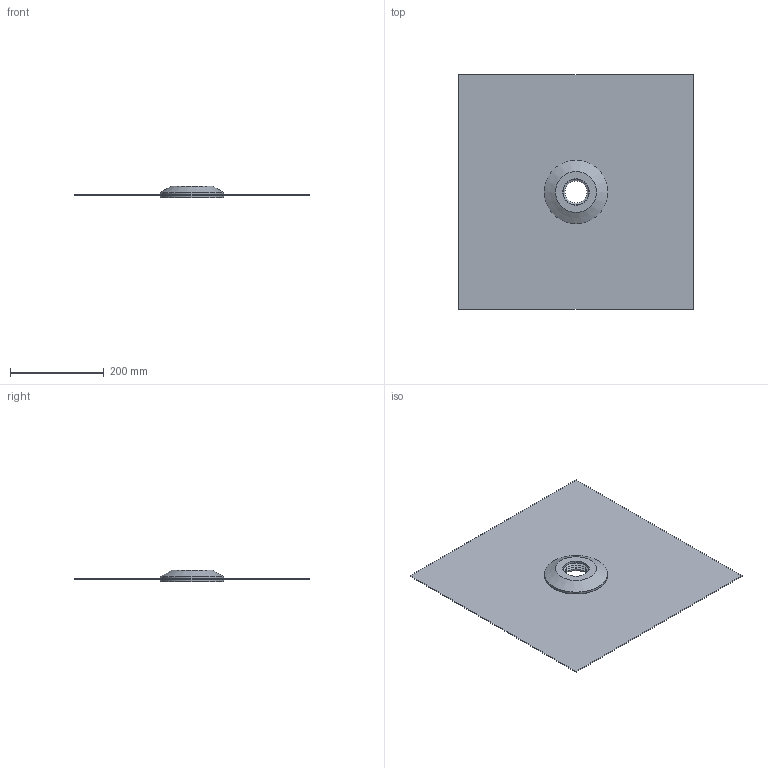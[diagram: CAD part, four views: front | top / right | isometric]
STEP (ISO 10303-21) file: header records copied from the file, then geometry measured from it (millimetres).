
FILE_DESCRIPTION(/* description */ (''),/* implementation_level */ '2;1');
FILE_NAME(/* name */ 'Z:\Geberit\Export\NewStep\Feucht_Ab_Dicht_ART\stp\361673.stp',/* time_stamp */ '2014-04-03T17:42:32+02:00',/* author */ ('bruh'),/* organization */ (''),/* preprocessor_version */ 'ST-DEVELOPER v15.2',/* originating_system */ 'Autodesk Inventor 2014',/* authorisation */ '');
FILE_SCHEMA (('AUTOMOTIVE_DESIGN { 1 0 10303 214 3 1 1 }'));
Length unit declared in the file: millimetre
Products named in the file (4): 361673_T1; 853.801.00.0; 853.802.00.0; 361673
Bounding box: 500 x 500 x 25 mm (x, y, z)
Volume: 547703.8 mm3; surface area: 557775.5 mm2
Topology: 3 solids, 3 shells, 29 faces, 51 edges, 32 vertices
Faces by surface type: plane 14, cylinder 8, cone 7
Full cylindrical faces by diameter (mm): 56 x2, 70 x2, 84 x2, 135 x2
Entity records: 754 total; most frequent: DIRECTION 132, CARTESIAN_POINT 104, ORIENTED_EDGE 72, AXIS2_PLACEMENT_3D 60, EDGE_LOOP 54, EDGE_CURVE 36, VERTEX_POINT 32, STYLED_ITEM 32
